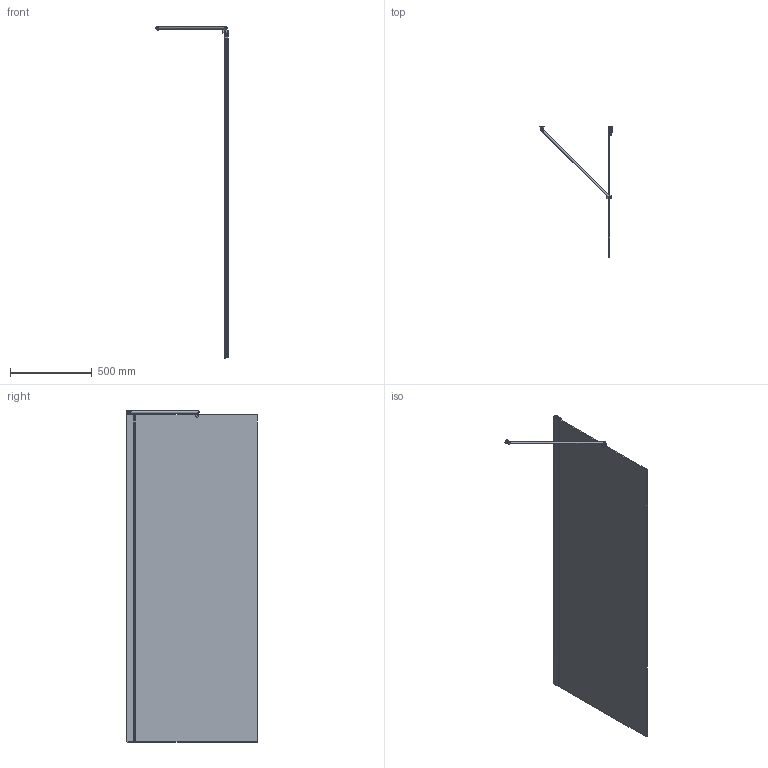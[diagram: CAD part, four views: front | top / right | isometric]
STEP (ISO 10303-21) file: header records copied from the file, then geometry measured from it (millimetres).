
FILE_DESCRIPTION(/* description */ ('Стенка задняя'),/* implementation_level */ '2;1');
FILE_NAME(/* name */ 'C:\Users\GWPC-133\Desktop\3DDDD\LUX DOOR GK-601N 3D правая.stp',/* time_stamp */ '2022-09-14T18:41:25+03:00',/* author */ ('GWPC-133'),/* organization */ (''),/* preprocessor_version */ 'ST-DEVELOPER v15.2',/* originating_system */ 'Autodesk Inventor 2014',/* authorisation */ '');
FILE_SCHEMA (('AUTOMOTIVE_DESIGN { 1 0 10303 214 3 1 1 }'));
Length unit declared in the file: millimetre
Products named in the file (22): Стекло.02 (P) TR; STB-12-6-001; STB-3 P2; STB-3 P3; STB-3 P6; STB-3 P7; STB-3 P8; STB-3 P5; ITL STB P10; ITL STB P9; ITL STB P8; STB-12-60_01; UP008K.01; PR-12-002; PR-12-003; PR-12-004; BUSH-12-PR003; ISO 7380 - M6 x 10; ISO 10642 - M6 x  10; PL-12-PR003; Упаковка; TREND DOOR GK-861NAP ПРАВАЯ (
модель)
Bounding box: 443.33 x 800 x 2031.49 mm (x, y, z)
Volume: 14069382.5 mm3; surface area: 4136467.1 mm2
Topology: 23 solids, 23 shells, 341 faces, 866 edges, 565 vertices
Faces by surface type: plane 211, cylinder 79, cone 40, torus 7, bspline 2, sphere 2
Full cylindrical faces by diameter (mm): 3 x1, 4.134 x1, 4.917 x5, 5 x1, 6 x10, 6.647 x1, 8 x5, 8.1 x2, 8.5 x1, 9 x1, 10 x2, 10.1 x2, 10.5 x2, 11.34 x2, 12 x1, 12.5 x1, 15 x1, 20 x3, 26 x1
Entity records: 9302 total; most frequent: CARTESIAN_POINT 1931, DIRECTION 1478, ORIENTED_EDGE 1338, EDGE_CURVE 669, AXIS2_PLACEMENT_3D 530, VERTEX_POINT 477, LINE 418, VECTOR 418
